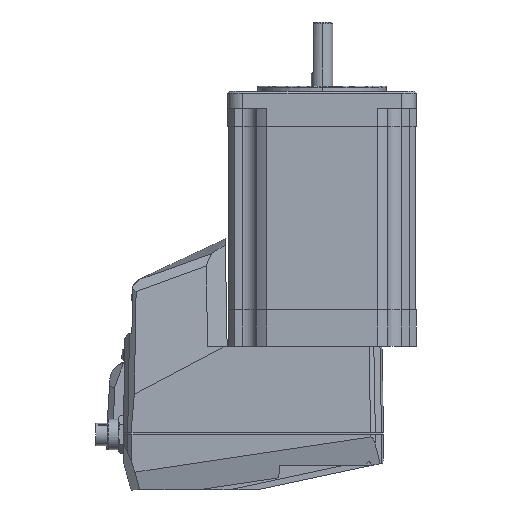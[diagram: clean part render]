
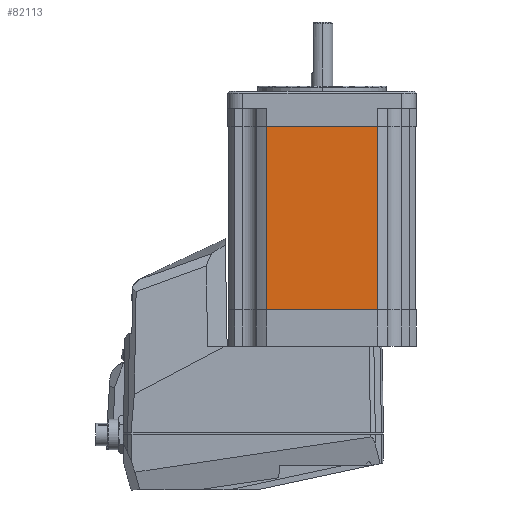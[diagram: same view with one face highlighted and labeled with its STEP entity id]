
A CAD part, left-side view. The second image highlights one B-rep face of the part: STEP entity #82113.
In plain terms, the highlighted planar face has unit normal (-1, 0, 0).
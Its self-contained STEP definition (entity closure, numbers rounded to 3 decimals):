
#1693 = DIRECTION ( 'NONE',  ( 0., 0., -1. ) ) ;
#16302 = ORIENTED_EDGE ( 'NONE', *, *, #206585, .T. ) ;
#39051 = CARTESIAN_POINT ( 'NONE',  ( -55.8, 11.427, -101.742 ) ) ;
#39498 = VERTEX_POINT ( 'NONE', #182351 ) ;
#54527 = EDGE_CURVE ( 'NONE', #141869, #192266, #57263, .T. ) ;
#57263 = LINE ( 'NONE', #163649, #126989 ) ;
#64837 = CARTESIAN_POINT ( 'NONE',  ( -55.8, -0.1, -47.342 ) ) ;
#65640 = CARTESIAN_POINT ( 'NONE',  ( -55.8, -0.1, -101.742 ) ) ;
#69556 = FACE_OUTER_BOUND ( 'NONE', #94883, .T. ) ;
#70115 = VECTOR ( 'NONE', #210072, 1000. ) ;
#77552 = CARTESIAN_POINT ( 'NONE',  ( -55.8, 11.427, -47.342 ) ) ;
#81507 = CARTESIAN_POINT ( 'NONE',  ( -55.8, 44.373, -101.742 ) ) ;
#82113 = ADVANCED_FACE ( 'NONE', ( #69556 ), #127917, .F. ) ;
#86404 = ORIENTED_EDGE ( 'NONE', *, *, #106303, .F. ) ;
#94883 = EDGE_LOOP ( 'NONE', ( #182999, #86404, #164974, #16302 ) ) ;
#104454 = AXIS2_PLACEMENT_3D ( 'NONE', #39051, #230882, #1693 ) ;
#106303 = EDGE_CURVE ( 'NONE', #146099, #141869, #206311, .T. ) ;
#119905 = VECTOR ( 'NONE', #176641, 1000. ) ;
#122867 = LINE ( 'NONE', #65640, #119905 ) ;
#126989 = VECTOR ( 'NONE', #161336, 1000. ) ;
#127917 = PLANE ( 'NONE',  #104454 ) ;
#134138 = LINE ( 'NONE', #81507, #70115 ) ;
#136765 = CARTESIAN_POINT ( 'NONE',  ( -55.8, 44.373, -47.342 ) ) ;
#141869 = VERTEX_POINT ( 'NONE', #77552 ) ;
#145047 = EDGE_CURVE ( 'NONE', #39498, #146099, #134138, .T. ) ;
#146099 = VERTEX_POINT ( 'NONE', #136765 ) ;
#152422 = CARTESIAN_POINT ( 'NONE',  ( -55.8, 11.427, -101.742 ) ) ;
#161336 = DIRECTION ( 'NONE',  ( 0., 0., -1. ) ) ;
#163649 = CARTESIAN_POINT ( 'NONE',  ( -55.8, 11.427, -101.742 ) ) ;
#164974 = ORIENTED_EDGE ( 'NONE', *, *, #145047, .F. ) ;
#176641 = DIRECTION ( 'NONE',  ( 0., -1., 0. ) ) ;
#182351 = CARTESIAN_POINT ( 'NONE',  ( -55.8, 44.373, -101.742 ) ) ;
#182999 = ORIENTED_EDGE ( 'NONE', *, *, #54527, .F. ) ;
#192266 = VERTEX_POINT ( 'NONE', #152422 ) ;
#206311 = LINE ( 'NONE', #64837, #211795 ) ;
#206585 = EDGE_CURVE ( 'NONE', #39498, #192266, #122867, .T. ) ;
#207455 = DIRECTION ( 'NONE',  ( 0., -1., 0. ) ) ;
#210072 = DIRECTION ( 'NONE',  ( 0., 0., 1. ) ) ;
#211795 = VECTOR ( 'NONE', #207455, 1000. ) ;
#230882 = DIRECTION ( 'NONE',  ( 1., 0., 0. ) ) ;
